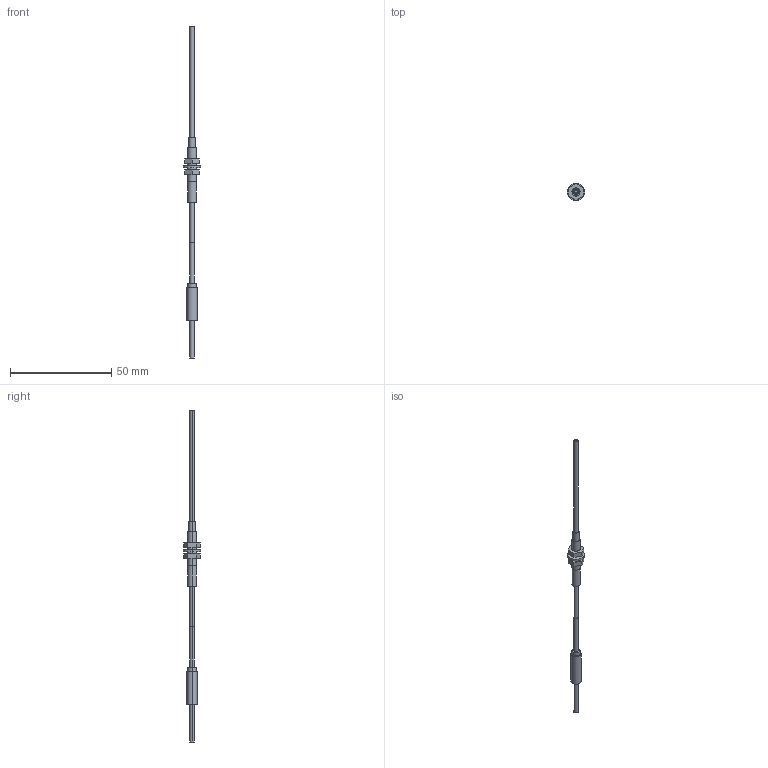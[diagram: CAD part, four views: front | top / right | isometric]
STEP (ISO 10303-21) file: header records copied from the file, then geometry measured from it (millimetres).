
FILE_DESCRIPTION (( 'STEP AP203' ), '1' );
FILE_NAME ('FT-H35-M2S6.STEP', '2005-11-09T08:27:39', ( '' ), ( '' ), 'SwSTEP 2.0', 'SolidWorks 2004073', '' );
FILE_SCHEMA (( 'CONFIG_CONTROL_DESIGN' ));
Length unit declared in the file: millimetre
Products named in the file (1): FT-H35-M2S6
Bounding box: 8.5 x 8.5 x 164 mm (x, y, z)
Volume: 1300.7 mm3; surface area: 1934.5 mm2
Topology: 7 solids, 7 shells, 60 faces, 120 edges, 80 vertices
Faces by surface type: plane 32, cylinder 28
Entity records: 1657 total; most frequent: DIRECTION 298, CARTESIAN_POINT 261, ORIENTED_EDGE 240, EDGE_CURVE 120, AXIS2_PLACEMENT_3D 117, VERTEX_POINT 80, EDGE_LOOP 72, VECTOR 64
